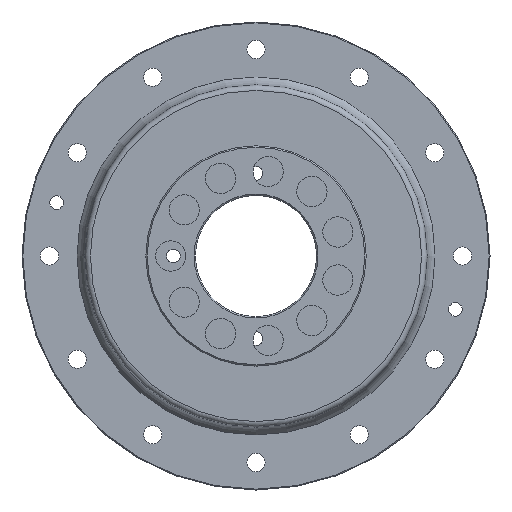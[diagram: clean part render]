
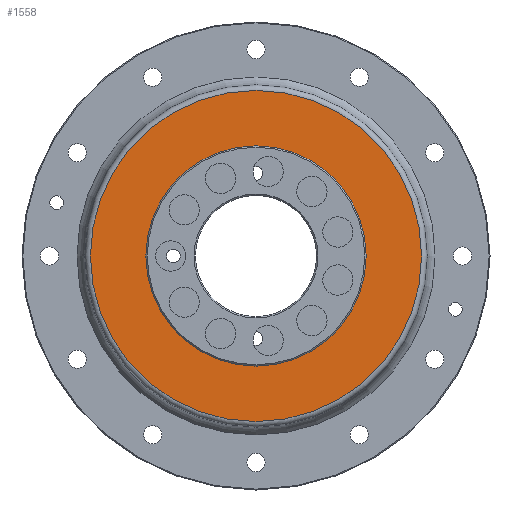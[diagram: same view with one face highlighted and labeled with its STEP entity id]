
A CAD part, left-side view. The second image highlights one B-rep face of the part: STEP entity #1558.
In plain terms, the highlighted planar face has unit normal (-1, 0, 0).
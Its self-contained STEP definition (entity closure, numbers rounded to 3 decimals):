
#337 = CIRCLE ( 'NONE', #1859, 60.15 ) ;
#482 = DIRECTION ( 'NONE',  ( 0., 0., -1. ) ) ;
#1385 = CARTESIAN_POINT ( 'NONE',  ( -17., 0., -60.15 ) ) ;
#1558 = ADVANCED_FACE ( 'NONE', ( #4843, #4708 ), #5644, .T. ) ;
#1718 = ORIENTED_EDGE ( 'NONE', *, *, #2032, .T. ) ;
#1821 = VERTEX_POINT ( 'NONE', #2803 ) ;
#1859 = AXIS2_PLACEMENT_3D ( 'NONE', #5490, #4434, #482 ) ;
#2032 = EDGE_CURVE ( 'NONE', #1821, #1821, #5968, .T. ) ;
#2057 = DIRECTION ( 'NONE',  ( -1., 0., 0. ) ) ;
#2236 = EDGE_CURVE ( 'NONE', #5281, #5281, #337, .T. ) ;
#2803 = CARTESIAN_POINT ( 'NONE',  ( -17., 0., -40. ) ) ;
#2811 = EDGE_LOOP ( 'NONE', ( #1718 ) ) ;
#2844 = EDGE_LOOP ( 'NONE', ( #3904 ) ) ;
#2925 = CARTESIAN_POINT ( 'NONE',  ( -17., 0., 0. ) ) ;
#3724 = DIRECTION ( 'NONE',  ( 0., 0., -1. ) ) ;
#3894 = DIRECTION ( 'NONE',  ( 0., 0., 1. ) ) ;
#3904 = ORIENTED_EDGE ( 'NONE', *, *, #2236, .F. ) ;
#4101 = DIRECTION ( 'NONE',  ( 1., 0., 0. ) ) ;
#4434 = DIRECTION ( 'NONE',  ( 1., 0., 0. ) ) ;
#4708 = FACE_OUTER_BOUND ( 'NONE', #2844, .T. ) ;
#4843 = FACE_BOUND ( 'NONE', #2811, .T. ) ;
#5181 = AXIS2_PLACEMENT_3D ( 'NONE', #5365, #2057, #3894 ) ;
#5281 = VERTEX_POINT ( 'NONE', #1385 ) ;
#5365 = CARTESIAN_POINT ( 'NONE',  ( -17., 60.15, 0. ) ) ;
#5490 = CARTESIAN_POINT ( 'NONE',  ( -17., 0., 0. ) ) ;
#5583 = AXIS2_PLACEMENT_3D ( 'NONE', #2925, #4101, #3724 ) ;
#5644 = PLANE ( 'NONE',  #5181 ) ;
#5968 = CIRCLE ( 'NONE', #5583, 40. ) ;
